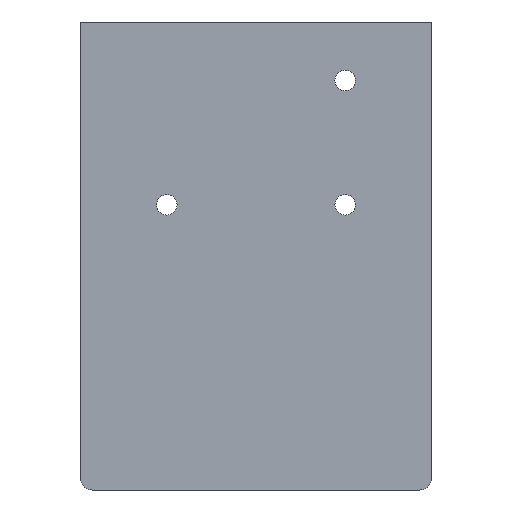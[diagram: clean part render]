
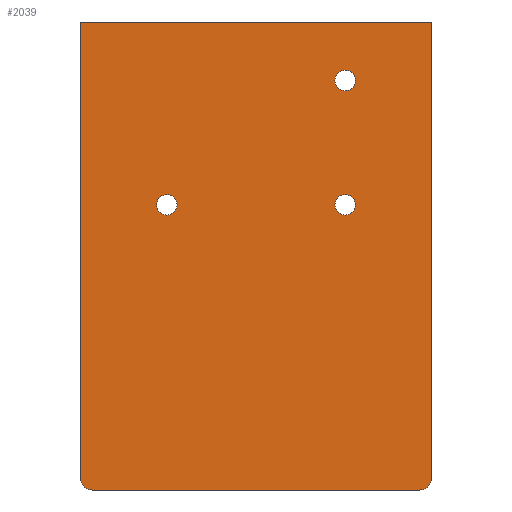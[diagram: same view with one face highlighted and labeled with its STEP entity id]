
A CAD part, front view. The second image highlights one B-rep face of the part: STEP entity #2039.
In plain terms, the highlighted planar face has unit normal (0, -1, 0).
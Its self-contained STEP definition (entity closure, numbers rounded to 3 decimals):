
#8 = LINE ( 'NONE', #2748, #2007 ) ;
#39 = DIRECTION ( 'NONE',  ( 0., -1., 0. ) ) ;
#66 = CARTESIAN_POINT ( 'NONE',  ( 45.25, 8., 93.25 ) ) ;
#76 = DIRECTION ( 'NONE',  ( 0., -1., 0. ) ) ;
#77 = DIRECTION ( 'NONE',  ( 0., 0., 1. ) ) ;
#182 = CARTESIAN_POINT ( 'NONE',  ( 60., 8., 105. ) ) ;
#188 = CIRCLE ( 'NONE', #1273, 2. ) ;
#258 = ORIENTED_EDGE ( 'NONE', *, *, #1906, .F. ) ;
#272 = VERTEX_POINT ( 'NONE', #1503 ) ;
#346 = EDGE_CURVE ( 'NONE', #633, #2852, #2752, .T. ) ;
#376 = VECTOR ( 'NONE', #1275, 1000. ) ;
#395 = EDGE_LOOP ( 'NONE', ( #1659, #2127 ) ) ;
#448 = CARTESIAN_POINT ( 'NONE',  ( 45.25, 8., 73.75 ) ) ;
#509 = DIRECTION ( 'NONE',  ( 0., -1., 0. ) ) ;
#518 = CIRCLE ( 'NONE', #2307, 1.75 ) ;
#569 = AXIS2_PLACEMENT_3D ( 'NONE', #1239, #1926, #1028 ) ;
#633 = VERTEX_POINT ( 'NONE', #1615 ) ;
#648 = FACE_OUTER_BOUND ( 'NONE', #928, .T. ) ;
#667 = DIRECTION ( 'NONE',  ( 0., 0., 1. ) ) ;
#673 = LINE ( 'NONE', #686, #1034 ) ;
#686 = CARTESIAN_POINT ( 'NONE',  ( 0., 8., 105. ) ) ;
#694 = EDGE_CURVE ( 'NONE', #1880, #1743, #518, .T. ) ;
#731 = ORIENTED_EDGE ( 'NONE', *, *, #346, .T. ) ;
#747 = CARTESIAN_POINT ( 'NONE',  ( 45.25, 8., 95. ) ) ;
#757 = CARTESIAN_POINT ( 'NONE',  ( 0., 8., 105. ) ) ;
#765 = CARTESIAN_POINT ( 'NONE',  ( 2., 8., 27. ) ) ;
#835 = CARTESIAN_POINT ( 'NONE',  ( 45.25, 8., 73.75 ) ) ;
#892 = EDGE_CURVE ( 'NONE', #1743, #1880, #2908, .T. ) ;
#902 = CARTESIAN_POINT ( 'NONE',  ( 14.75, 8., 73.75 ) ) ;
#928 = EDGE_LOOP ( 'NONE', ( #1345, #1035, #1176, #731, #1852, #2215 ) ) ;
#966 = EDGE_CURVE ( 'NONE', #1170, #1230, #8, .T. ) ;
#972 = DIRECTION ( 'NONE',  ( 0., 0., -1. ) ) ;
#1028 = DIRECTION ( 'NONE',  ( 0., 0., 1. ) ) ;
#1034 = VECTOR ( 'NONE', #1325, 1000. ) ;
#1035 = ORIENTED_EDGE ( 'NONE', *, *, #1238, .T. ) ;
#1067 = DIRECTION ( 'NONE',  ( 0., -1., 0. ) ) ;
#1081 = AXIS2_PLACEMENT_3D ( 'NONE', #902, #39, #2716 ) ;
#1093 = VERTEX_POINT ( 'NONE', #757 ) ;
#1124 = CIRCLE ( 'NONE', #2538, 1.75 ) ;
#1135 = ORIENTED_EDGE ( 'NONE', *, *, #2154, .F. ) ;
#1157 = DIRECTION ( 'NONE',  ( 0., 0., -1. ) ) ;
#1161 = CARTESIAN_POINT ( 'NONE',  ( 14.75, 8., 73.75 ) ) ;
#1170 = VERTEX_POINT ( 'NONE', #2536 ) ;
#1176 = ORIENTED_EDGE ( 'NONE', *, *, #1888, .T. ) ;
#1209 = DIRECTION ( 'NONE',  ( 0., 0., -1. ) ) ;
#1219 = VERTEX_POINT ( 'NONE', #1313 ) ;
#1222 = DIRECTION ( 'NONE',  ( 0., 0., -1. ) ) ;
#1223 = AXIS2_PLACEMENT_3D ( 'NONE', #2369, #2446, #667 ) ;
#1227 = VECTOR ( 'NONE', #2738, 1000. ) ;
#1230 = VERTEX_POINT ( 'NONE', #182 ) ;
#1238 = EDGE_CURVE ( 'NONE', #1093, #1219, #1483, .T. ) ;
#1239 = CARTESIAN_POINT ( 'NONE',  ( 58., 8., 27. ) ) ;
#1253 = FACE_BOUND ( 'NONE', #395, .T. ) ;
#1258 = ORIENTED_EDGE ( 'NONE', *, *, #892, .F. ) ;
#1266 = CARTESIAN_POINT ( 'NONE',  ( 58., 8., 25. ) ) ;
#1273 = AXIS2_PLACEMENT_3D ( 'NONE', #765, #2574, #77 ) ;
#1275 = DIRECTION ( 'NONE',  ( 0., 0., -1. ) ) ;
#1305 = FACE_BOUND ( 'NONE', #2225, .T. ) ;
#1313 = CARTESIAN_POINT ( 'NONE',  ( 0., 8., 27. ) ) ;
#1325 = DIRECTION ( 'NONE',  ( -1., 0., 0. ) ) ;
#1345 = ORIENTED_EDGE ( 'NONE', *, *, #1793, .T. ) ;
#1477 = PLANE ( 'NONE',  #1223 ) ;
#1483 = LINE ( 'NONE', #1983, #376 ) ;
#1503 = CARTESIAN_POINT ( 'NONE',  ( 14.75, 8., 72. ) ) ;
#1543 = AXIS2_PLACEMENT_3D ( 'NONE', #835, #1067, #1729 ) ;
#1566 = VERTEX_POINT ( 'NONE', #66 ) ;
#1615 = CARTESIAN_POINT ( 'NONE',  ( 2., 8., 25. ) ) ;
#1648 = CARTESIAN_POINT ( 'NONE',  ( 14.75, 8., 75.5 ) ) ;
#1659 = ORIENTED_EDGE ( 'NONE', *, *, #2734, .F. ) ;
#1729 = DIRECTION ( 'NONE',  ( 0., 0., -1. ) ) ;
#1743 = VERTEX_POINT ( 'NONE', #1792 ) ;
#1792 = CARTESIAN_POINT ( 'NONE',  ( 45.25, 8., 75.5 ) ) ;
#1793 = EDGE_CURVE ( 'NONE', #1230, #1093, #673, .T. ) ;
#1817 = DIRECTION ( 'NONE',  ( 0., -1., 0. ) ) ;
#1837 = CIRCLE ( 'NONE', #569, 2. ) ;
#1852 = ORIENTED_EDGE ( 'NONE', *, *, #2658, .T. ) ;
#1866 = CARTESIAN_POINT ( 'NONE',  ( 45.25, 8., 72. ) ) ;
#1880 = VERTEX_POINT ( 'NONE', #1866 ) ;
#1888 = EDGE_CURVE ( 'NONE', #1219, #633, #188, .T. ) ;
#1906 = EDGE_CURVE ( 'NONE', #272, #2713, #1124, .T. ) ;
#1917 = EDGE_CURVE ( 'NONE', #2115, #1566, #2725, .T. ) ;
#1926 = DIRECTION ( 'NONE',  ( 0., -1., 0. ) ) ;
#1983 = CARTESIAN_POINT ( 'NONE',  ( 0., 8., 105. ) ) ;
#2007 = VECTOR ( 'NONE', #2016, 1000. ) ;
#2012 = AXIS2_PLACEMENT_3D ( 'NONE', #2090, #509, #1209 ) ;
#2016 = DIRECTION ( 'NONE',  ( 0., 0., 1. ) ) ;
#2039 = ADVANCED_FACE ( 'NONE', ( #648, #1305, #2835, #1253 ), #1477, .F. ) ;
#2055 = DIRECTION ( 'NONE',  ( 0., -1., 0. ) ) ;
#2090 = CARTESIAN_POINT ( 'NONE',  ( 45.25, 8., 95. ) ) ;
#2115 = VERTEX_POINT ( 'NONE', #2656 ) ;
#2119 = CIRCLE ( 'NONE', #2213, 1.75 ) ;
#2127 = ORIENTED_EDGE ( 'NONE', *, *, #1917, .F. ) ;
#2154 = EDGE_CURVE ( 'NONE', #2713, #272, #2871, .T. ) ;
#2213 = AXIS2_PLACEMENT_3D ( 'NONE', #747, #76, #972 ) ;
#2215 = ORIENTED_EDGE ( 'NONE', *, *, #966, .T. ) ;
#2222 = EDGE_LOOP ( 'NONE', ( #2577, #1258 ) ) ;
#2225 = EDGE_LOOP ( 'NONE', ( #258, #1135 ) ) ;
#2289 = CARTESIAN_POINT ( 'NONE',  ( 58., 8., 25. ) ) ;
#2307 = AXIS2_PLACEMENT_3D ( 'NONE', #448, #1817, #1157 ) ;
#2369 = CARTESIAN_POINT ( 'NONE',  ( 58., 8., 27. ) ) ;
#2446 = DIRECTION ( 'NONE',  ( 0., 1., 0. ) ) ;
#2536 = CARTESIAN_POINT ( 'NONE',  ( 60., 8., 27. ) ) ;
#2538 = AXIS2_PLACEMENT_3D ( 'NONE', #1161, #2055, #1222 ) ;
#2574 = DIRECTION ( 'NONE',  ( 0., -1., 0. ) ) ;
#2577 = ORIENTED_EDGE ( 'NONE', *, *, #694, .F. ) ;
#2656 = CARTESIAN_POINT ( 'NONE',  ( 45.25, 8., 96.75 ) ) ;
#2658 = EDGE_CURVE ( 'NONE', #2852, #1170, #1837, .T. ) ;
#2713 = VERTEX_POINT ( 'NONE', #1648 ) ;
#2716 = DIRECTION ( 'NONE',  ( 0., 0., -1. ) ) ;
#2725 = CIRCLE ( 'NONE', #2012, 1.75 ) ;
#2734 = EDGE_CURVE ( 'NONE', #1566, #2115, #2119, .T. ) ;
#2738 = DIRECTION ( 'NONE',  ( 1., 0., 0. ) ) ;
#2748 = CARTESIAN_POINT ( 'NONE',  ( 60., 8., 105. ) ) ;
#2752 = LINE ( 'NONE', #2289, #1227 ) ;
#2835 = FACE_BOUND ( 'NONE', #2222, .T. ) ;
#2852 = VERTEX_POINT ( 'NONE', #1266 ) ;
#2871 = CIRCLE ( 'NONE', #1081, 1.75 ) ;
#2908 = CIRCLE ( 'NONE', #1543, 1.75 ) ;
